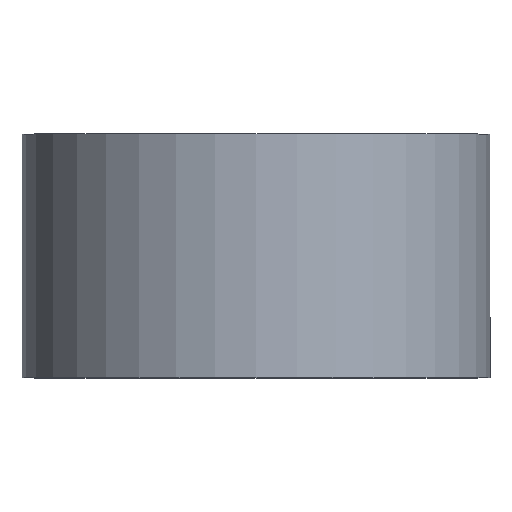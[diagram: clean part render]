
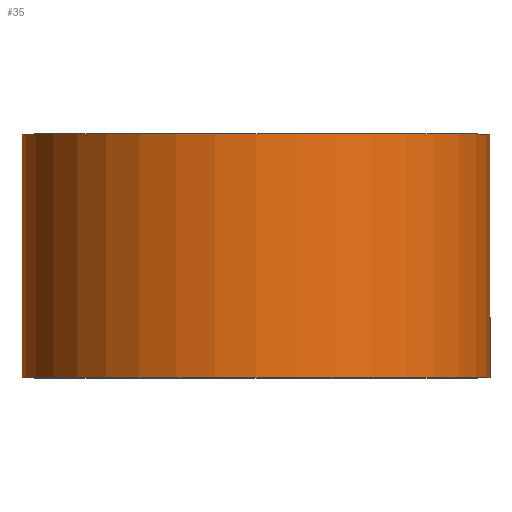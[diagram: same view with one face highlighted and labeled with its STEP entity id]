
A CAD part, top view. The second image highlights one B-rep face of the part: STEP entity #35.
In plain terms, the highlighted cylindrical face has radius 24 mm (diameter 48 mm), a partial arc.
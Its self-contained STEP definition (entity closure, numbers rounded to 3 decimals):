
#9 = CARTESIAN_POINT ( 'NONE',  ( -24., 0., 0. ) ) ;
#13 = VERTEX_POINT ( 'NONE', #9 ) ;
#21 = VECTOR ( 'NONE', #263, 1000. ) ;
#25 = DIRECTION ( 'NONE',  ( 0., 1., 0. ) ) ;
#33 = VERTEX_POINT ( 'NONE', #214 ) ;
#34 = CARTESIAN_POINT ( 'NONE',  ( 0., 0., 0. ) ) ;
#35 = ADVANCED_FACE ( 'NONE', ( #294 ), #289, .T. ) ;
#40 = CARTESIAN_POINT ( 'NONE',  ( 0., 0., 0. ) ) ;
#41 = DIRECTION ( 'NONE',  ( -1., 0., 0. ) ) ;
#48 = LINE ( 'NONE', #236, #21 ) ;
#54 = DIRECTION ( 'NONE',  ( 0., 1., 0. ) ) ;
#57 = EDGE_CURVE ( 'NONE', #13, #33, #76, .T. ) ;
#76 = CIRCLE ( 'NONE', #168, 24. ) ;
#98 = EDGE_CURVE ( 'NONE', #33, #283, #193, .T. ) ;
#100 = ORIENTED_EDGE ( 'NONE', *, *, #277, .F. ) ;
#107 = AXIS2_PLACEMENT_3D ( 'NONE', #34, #54, #41 ) ;
#122 = EDGE_LOOP ( 'NONE', ( #147, #240, #100, #276 ) ) ;
#132 = CIRCLE ( 'NONE', #293, 24. ) ;
#140 = CARTESIAN_POINT ( 'NONE',  ( 0., 25., 0. ) ) ;
#147 = ORIENTED_EDGE ( 'NONE', *, *, #57, .T. ) ;
#148 = EDGE_CURVE ( 'NONE', #13, #208, #48, .T. ) ;
#164 = CARTESIAN_POINT ( 'NONE',  ( 24., 25., 0. ) ) ;
#168 = AXIS2_PLACEMENT_3D ( 'NONE', #40, #295, #182 ) ;
#179 = DIRECTION ( 'NONE',  ( 0., 1., 0. ) ) ;
#182 = DIRECTION ( 'NONE',  ( -1., 0., 0. ) ) ;
#185 = CARTESIAN_POINT ( 'NONE',  ( -24., 25., 0. ) ) ;
#193 = LINE ( 'NONE', #260, #197 ) ;
#197 = VECTOR ( 'NONE', #179, 1000. ) ;
#208 = VERTEX_POINT ( 'NONE', #185 ) ;
#214 = CARTESIAN_POINT ( 'NONE',  ( 24., 0., 0. ) ) ;
#236 = CARTESIAN_POINT ( 'NONE',  ( -24., 0., 0. ) ) ;
#240 = ORIENTED_EDGE ( 'NONE', *, *, #98, .T. ) ;
#260 = CARTESIAN_POINT ( 'NONE',  ( 24., 0., 0. ) ) ;
#263 = DIRECTION ( 'NONE',  ( 0., 1., 0. ) ) ;
#276 = ORIENTED_EDGE ( 'NONE', *, *, #148, .F. ) ;
#277 = EDGE_CURVE ( 'NONE', #208, #283, #132, .T. ) ;
#283 = VERTEX_POINT ( 'NONE', #164 ) ;
#289 = CYLINDRICAL_SURFACE ( 'NONE', #107, 24. ) ;
#293 = AXIS2_PLACEMENT_3D ( 'NONE', #140, #25, #299 ) ;
#294 = FACE_OUTER_BOUND ( 'NONE', #122, .T. ) ;
#295 = DIRECTION ( 'NONE',  ( 0., 1., 0. ) ) ;
#299 = DIRECTION ( 'NONE',  ( -1., 0., 0. ) ) ;
